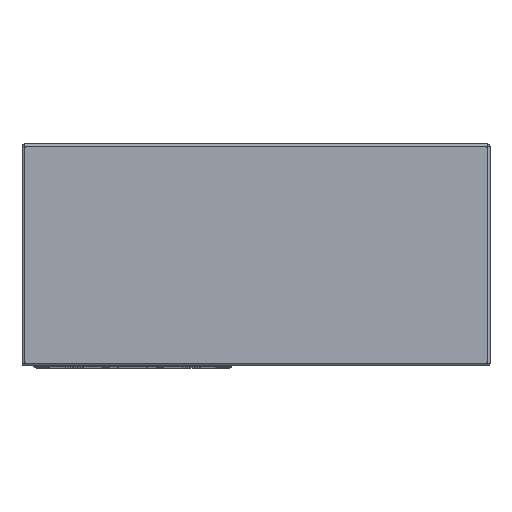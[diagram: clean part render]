
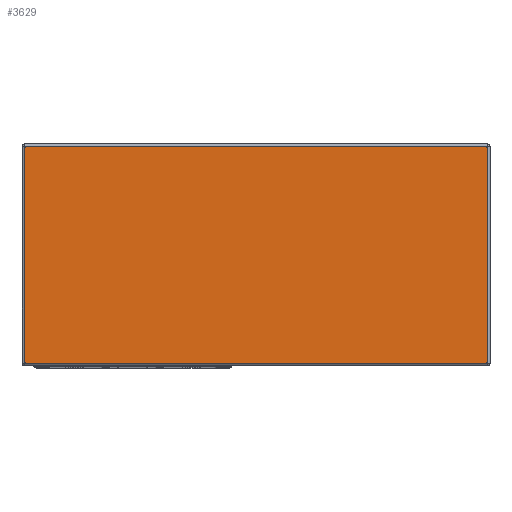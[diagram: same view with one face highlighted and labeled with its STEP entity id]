
A CAD part, top view. The second image highlights one B-rep face of the part: STEP entity #3629.
In plain terms, the highlighted planar face has unit normal (0, 0, 1).
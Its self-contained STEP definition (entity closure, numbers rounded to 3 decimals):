
#2228 = LINE ( 'NONE', #8332, #21535 ) ;
#2956 = PLANE ( 'NONE',  #15450 ) ;
#3629 = ADVANCED_FACE ( 'NONE', ( #6238 ), #2956, .T. ) ;
#3966 = DIRECTION ( 'NONE',  ( 0., 1., 0. ) ) ;
#4076 = ORIENTED_EDGE ( 'NONE', *, *, #26516, .T. ) ;
#4100 = EDGE_CURVE ( 'NONE', #7065, #23400, #14020, .T. ) ;
#4502 = EDGE_LOOP ( 'NONE', ( #31690, #4076, #9671, #20563 ) ) ;
#6238 = FACE_OUTER_BOUND ( 'NONE', #4502, .T. ) ;
#6519 = CARTESIAN_POINT ( 'NONE',  ( -44., -44., 521. ) ) ;
#7065 = VERTEX_POINT ( 'NONE', #26980 ) ;
#8218 = CARTESIAN_POINT ( 'NONE',  ( 0., 0., 521. ) ) ;
#8332 = CARTESIAN_POINT ( 'NONE',  ( -45., 44., 521. ) ) ;
#9671 = ORIENTED_EDGE ( 'NONE', *, *, #28939, .T. ) ;
#9710 = CARTESIAN_POINT ( 'NONE',  ( -44., -45., 521. ) ) ;
#10857 = DIRECTION ( 'NONE',  ( 1., 0., 0. ) ) ;
#11740 = EDGE_CURVE ( 'NONE', #23400, #28241, #16198, .T. ) ;
#11839 = VECTOR ( 'NONE', #3966, 1000. ) ;
#12084 = DIRECTION ( 'NONE',  ( 1., 0., 0. ) ) ;
#13084 = CARTESIAN_POINT ( 'NONE',  ( 144., -44., 521. ) ) ;
#13324 = VERTEX_POINT ( 'NONE', #33840 ) ;
#14020 = LINE ( 'NONE', #9710, #29605 ) ;
#15365 = VECTOR ( 'NONE', #12084, 1000. ) ;
#15450 = AXIS2_PLACEMENT_3D ( 'NONE', #8218, #26594, #10857 ) ;
#16198 = LINE ( 'NONE', #19900, #15365 ) ;
#17078 = CARTESIAN_POINT ( 'NONE',  ( 144., 45., 521. ) ) ;
#19900 = CARTESIAN_POINT ( 'NONE',  ( 145., -44., 521. ) ) ;
#20563 = ORIENTED_EDGE ( 'NONE', *, *, #4100, .T. ) ;
#21535 = VECTOR ( 'NONE', #26715, 1000. ) ;
#23400 = VERTEX_POINT ( 'NONE', #6519 ) ;
#25469 = DIRECTION ( 'NONE',  ( 0., -1., 0. ) ) ;
#26516 = EDGE_CURVE ( 'NONE', #28241, #13324, #32755, .T. ) ;
#26594 = DIRECTION ( 'NONE',  ( 0., 0., 1. ) ) ;
#26715 = DIRECTION ( 'NONE',  ( -1., 0., 0. ) ) ;
#26980 = CARTESIAN_POINT ( 'NONE',  ( -44., 44., 521. ) ) ;
#28241 = VERTEX_POINT ( 'NONE', #13084 ) ;
#28939 = EDGE_CURVE ( 'NONE', #13324, #7065, #2228, .T. ) ;
#29605 = VECTOR ( 'NONE', #25469, 1000. ) ;
#31690 = ORIENTED_EDGE ( 'NONE', *, *, #11740, .T. ) ;
#32755 = LINE ( 'NONE', #17078, #11839 ) ;
#33840 = CARTESIAN_POINT ( 'NONE',  ( 144., 44., 521. ) ) ;
